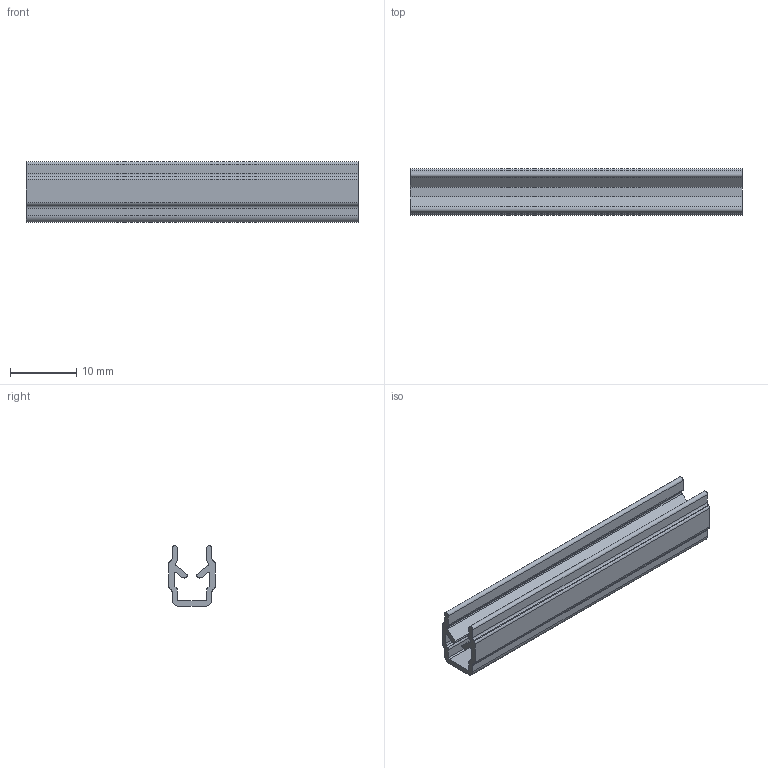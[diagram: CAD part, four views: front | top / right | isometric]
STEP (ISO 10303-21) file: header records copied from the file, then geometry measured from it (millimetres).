
FILE_DESCRIPTION (( 'STEP AP203' ), '1' );
FILE_NAME ('0106AEPSCH.STEP', '2024-03-13T11:01:13', ( 'Windows-Benutzer' ), ( '' ), 'SwSTEP 2.0', 'SolidWorks 2023', '' );
FILE_SCHEMA (( 'CONFIG_CONTROL_DESIGN' ));
Length unit declared in the file: millimetre
Products named in the file (1): 0106AEPSCH
Bounding box: 50 x 7 x 9.1 mm (x, y, z)
Volume: 1100.3 mm3; surface area: 2728.9 mm2
Topology: 1 solids, 1 shells, 60 faces, 174 edges, 116 vertices
Faces by surface type: cylinder 30, plane 30
Entity records: 2075 total; most frequent: DIRECTION 356, CARTESIAN_POINT 351, ORIENTED_EDGE 348, EDGE_CURVE 174, AXIS2_PLACEMENT_3D 121, VERTEX_POINT 116, VECTOR 114, LINE 114
